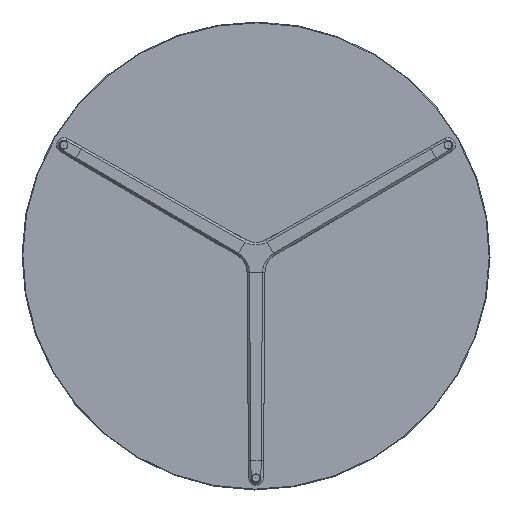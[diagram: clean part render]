
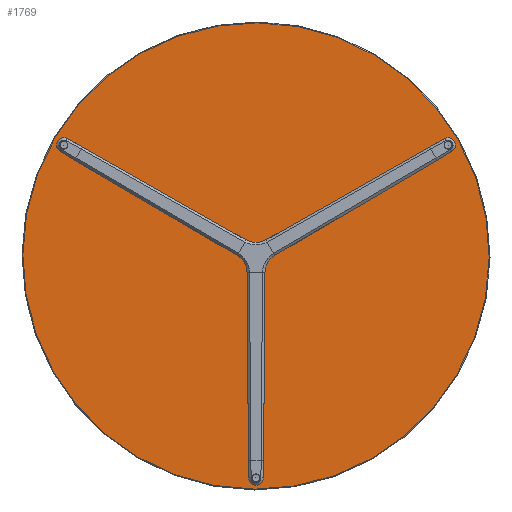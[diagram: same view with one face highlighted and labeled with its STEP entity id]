
A CAD part, front view. The second image highlights one B-rep face of the part: STEP entity #1769.
In plain terms, the highlighted planar face has unit normal (0, -1, 0).
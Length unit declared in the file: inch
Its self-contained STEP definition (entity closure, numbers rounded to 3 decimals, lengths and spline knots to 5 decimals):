
#334=PLANE('',#2199);
#438=FACE_OUTER_BOUND('',#559,.T.);
#559=EDGE_LOOP('',(#1612));
#858=CIRCLE('',#2195,17.9375);
#989=VERTEX_POINT('',#3650);
#1197=EDGE_CURVE('',#989,#989,#858,.T.);
#1612=ORIENTED_EDGE('',*,*,#1197,.F.);
#1769=ADVANCED_FACE('',(#438),#334,.F.);
#2195=AXIS2_PLACEMENT_3D('',#3652,#2736,#2737);
#2199=AXIS2_PLACEMENT_3D('',#3659,#2745,#2746);
#2736=DIRECTION('center_axis',(0.,1.,0.));
#2737=DIRECTION('ref_axis',(1.,0.,0.));
#2745=DIRECTION('center_axis',(0.,1.,0.));
#2746=DIRECTION('ref_axis',(0.,0.,1.));
#3650=CARTESIAN_POINT('',(-17.9375,0.,0.));
#3652=CARTESIAN_POINT('Origin',(0.,0.,0.));
#3659=CARTESIAN_POINT('Origin',(0.,0.,0.));
